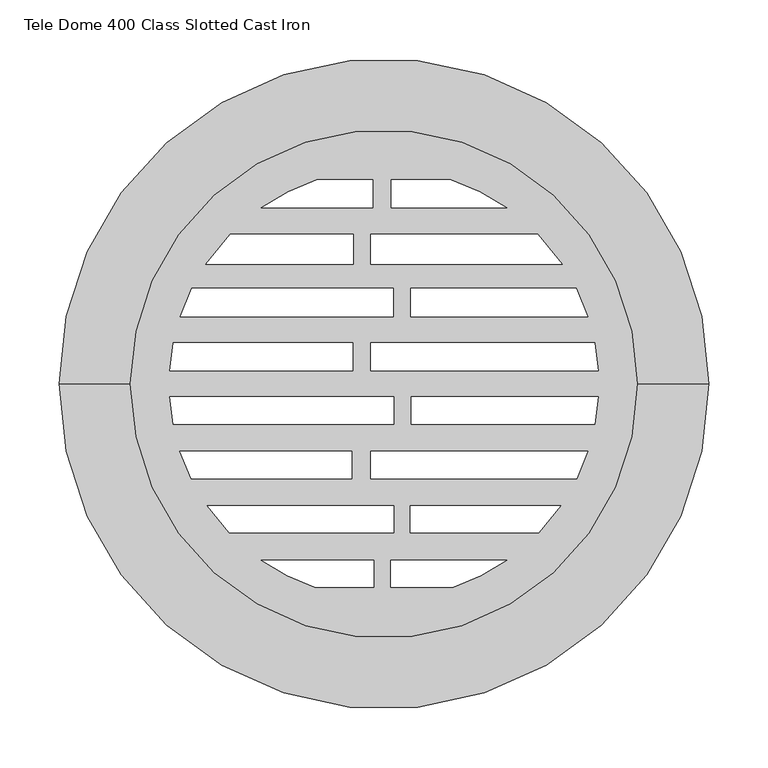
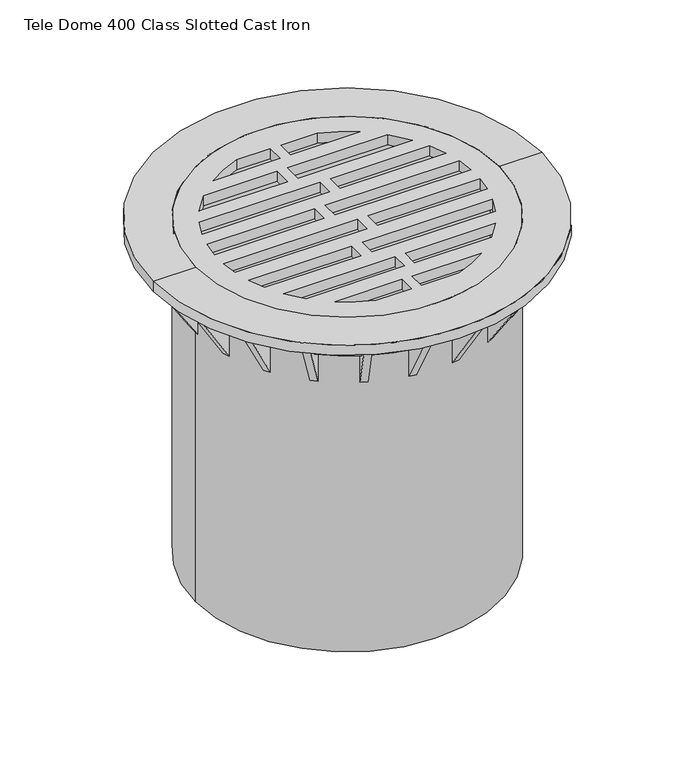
"""IFC4 building model written with IfcOpenShell, lengths in millimetres: proxy geometry, GRAF Tele Dome 400 Class Slotted Cast Iron : Tele Dome 400 Class Slotted Cast Iron."""

from ifc_helpers import new_model, si_unit, point, frame, origin, origin_2d, place, context, project, spatial, polyline, circle_curve, trimmed, segment, composite_curve, outline, extrude, source, transform, mapped, element, save
from ifc_brep_helpers import plane_surface, cylinder_surface, revolved_surface, advanced_brep


def tele_dome_400_class_slotted_cast_iron_ae01a707(model_context):
    return source(origin(), model_context, "Body", "SolidModel", [
        advanced_brep(
        [(215.0, 0.0, -14.9500624), (-215.0, 0.0, -14.9500624), (-275.0, 0.0, -14.9500624), (275.0, 0.0, -14.9500624), (-275.0, 0.0, 0.0), (275.0, 0.0, 0.0), (-215.0, 0.0, 0.0), (215.0, 0.0, 0.0)],
        [
            (0, 1, circle_curve(frame((0.0, 0.0, -14.9500624), z_axis=(0.0, 0.0, 1.0), x_axis=(-1.0, 0.0, 0.0)), 215.0)),
            (1, 2),
            (2, 3, circle_curve(frame((0.0, 0.0, -14.9500624), z_axis=(0.0, 0.0, -1.0), x_axis=(-1.0, 0.0, 0.0)), 275.0)),
            (3, 0),
            (1, 0, circle_curve(frame((0.0, 0.0, -14.9500624), z_axis=(0.0, 0.0, 1.0), x_axis=(-1.0, 0.0, 0.0)), 215.0)),
            (3, 2, circle_curve(frame((0.0, 0.0, -14.9500624), z_axis=(0.0, 0.0, -1.0), x_axis=(-1.0, 0.0, 0.0)), 275.0)),
            (2, 4),
            (4, 5, circle_curve(frame((0.0, 0.0, 0.0), z_axis=(0.0, 0.0, -1.0), x_axis=(-1.0, 0.0, 0.0)), 275.0)),
            (5, 3),
            (5, 4, circle_curve(frame((0.0, 0.0, 0.0), z_axis=(0.0, 0.0, -1.0), x_axis=(-1.0, 0.0, 0.0)), 275.0)),
            (4, 6),
            (6, 7, circle_curve(frame((0.0, 0.0, 0.0), z_axis=(0.0, 0.0, -1.0), x_axis=(-1.0, 0.0, 0.0)), 215.0)),
            (7, 5),
            (7, 6, circle_curve(frame((0.0, 0.0, 0.0), z_axis=(0.0, 0.0, -1.0), x_axis=(-1.0, 0.0, 0.0)), 215.0)),
            (6, 1),
            (0, 7),
        ],
        [
            plane_surface(frame((0.0, 0.0, -14.9500624), z_axis=(0.0, 0.0, -1.0), x_axis=(-1.0, 0.0, 0.0))),
            cylinder_surface(frame((0.0, 0.0, -119.9500624), z_axis=(0.0, 0.0, -1.0), x_axis=(-1.0, 0.0, 0.0)), 275.0),
            plane_surface(frame((0.0, 0.0, 0.0), z_axis=(0.0, 0.0, 1.0), x_axis=(-1.0, 0.0, 0.0))),
            revolved_surface(polyline([(-215.0, 0.0, -14.950062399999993), (-215.0, 0.0, 0.0)]), (0.0, 0.0, -119.9500624), (0.0, 0.0, -1.0)),
        ],
        [
            (0, [[1, 2, 3, 4]]),
            (0, [[5, -4, 6, -2]]),
            (1, [[-3, 7, 8, 9]]),
            (1, [[-6, -9, 10, -7]]),
            (2, [[-8, 11, 12, 13]]),
            (2, [[-10, -13, 14, -11]]),
            (3, [[-12, 15, -1, 16]]),
            (3, [[-14, -16, -5, -15]]),
        ],
    ),
        extrude(outline(composite_curve([segment(trimmed(circle_curve(origin_2d(), 215.0), [point((-215.0, 0.0))], [point((215.0, 0.0))], False, "CARTESIAN"), True, "CONTINUOUS"), segment(trimmed(circle_curve(origin_2d(), 215.0), [point((215.0, 0.0))], [point((-215.0, 0.0))], False, "CARTESIAN"), True, "CONTINUOUS")], self_intersect=False), holes=[composite_curve([segment(trimmed(circle_curve(origin_2d(), 202.0), [point((-202.0, 0.0))], [point((202.0, 0.0))], True, "CARTESIAN"), True, "CONTINUOUS"), segment(trimmed(circle_curve(origin_2d(), 202.0), [point((202.0, 0.0))], [point((-202.0, 0.0))], True, "CARTESIAN"), True, "CONTINUOUS")], self_intersect=False)]), frame((0.0, 0.0, -500.0), z_axis=(0.0, 0.0, 1.0), x_axis=(1.0, 0.0, 0.0)), (0.0, 0.0, 1.0), 485.0499376),
        extrude(outline(composite_curve([segment(trimmed(circle_curve(origin_2d(), 215.0), [point((215.0, 0.0))], [point((-215.0, 0.0))], False, "CARTESIAN"), True, "CONTINUOUS"), segment(trimmed(circle_curve(origin_2d(), 215.0), [point((-215.0, 0.0))], [point((215.0, 0.0))], False, "CARTESIAN"), True, "CONTINUOUS")], self_intersect=False), holes=[composite_curve([segment(trimmed(circle_curve(origin_2d(), 181.7879702), [point((104.0056263, 149.0962636))], [point((56.7020632, 172.7186792))], True, "CARTESIAN"), True, "CONTINUOUS"), segment(polyline([(56.7020632, 172.7186792), (6.0031062, 172.7186792), (6.0031062, 149.0962636), (104.0056263, 149.0962636)]), True, "CONTINUOUS")], self_intersect=False), composite_curve([segment(polyline([(-104.0056263, 149.0962636), (-9.368181, 149.0962636), (-9.368181, 172.7186792), (-56.7020632, 172.7186792)]), True, "CONTINUOUS"), segment(trimmed(circle_curve(origin_2d(), 181.7879702), [point((-56.7020632, 172.7186792))], [point((-104.0056263, 149.0962636))], True, "CARTESIAN"), True, "CONTINUOUS")], self_intersect=False), composite_curve([segment(trimmed(circle_curve(origin_2d(), 181.7879702), [point((-130.2807998, 126.7824094))], [point((-150.8217499, 101.4872695))], True, "CARTESIAN"), True, "CONTINUOUS"), segment(polyline([(-150.8217499, 101.4872695), (-26.0395943, 101.4872695), (-26.0395943, 126.7824094), (-130.2807998, 126.7824094)]), True, "CONTINUOUS")], self_intersect=False), composite_curve([segment(trimmed(circle_curve(origin_2d(), 181.7879702), [point((150.8217499, 101.4872695))], [point((130.2807998, 126.7824094))], True, "CARTESIAN"), True, "CONTINUOUS"), segment(polyline([(130.2807998, 126.7824094), (-11.1301775, 126.7824094), (-11.1301775, 101.4872695), (150.8217499, 101.4872695)]), True, "CONTINUOUS")], self_intersect=False), composite_curve([segment(trimmed(circle_curve(origin_2d(), 181.7879702), [point((-162.7315295, 81.0266341))], [point((-172.5932119, 57.0828286))], True, "CARTESIAN"), True, "CONTINUOUS"), segment(polyline([(-172.5932119, 57.0828286), (8.0502934, 57.0828286), (8.0502934, 81.0266341), (-162.7315295, 81.0266341)]), True, "CONTINUOUS")], self_intersect=False), composite_curve([segment(trimmed(circle_curve(origin_2d(), 181.7879702), [point((172.5932119, 57.0828286))], [point((162.7315295, 81.0266341))], True, "CARTESIAN"), True, "CONTINUOUS"), segment(polyline([(162.7315295, 81.0266341), (22.6792865, 81.0266341), (22.6792865, 57.0828286), (172.5932119, 57.0828286)]), True, "CONTINUOUS")], self_intersect=False), composite_curve([segment(polyline([(178.419085, 34.8352727), (-11.2199973, 34.8352727), (-11.2199973, 11.148851), (181.4457749, 11.148851)]), True, "CONTINUOUS"), segment(trimmed(circle_curve(origin_2d(), 181.7879702), [point((181.4457749, 11.148851))], [point((178.419085, 34.8352727))], True, "CARTESIAN"), True, "CONTINUOUS")], self_intersect=False), composite_curve([segment(trimmed(circle_curve(origin_2d(), 181.7879702), [point((-178.419085, 34.8352727))], [point((-181.4457749, 11.148851))], True, "CARTESIAN"), True, "CONTINUOUS"), segment(polyline([(-181.4457749, 11.148851), (-26.3138873, 11.148851), (-26.3138873, 34.8352727), (-178.419085, 34.8352727)]), True, "CONTINUOUS")], self_intersect=False), composite_curve([segment(trimmed(circle_curve(origin_2d(), 181.7879702), [point((-181.4539998, -11.0141769))], [point((-178.5405492, -34.2072859))], True, "CARTESIAN"), True, "CONTINUOUS"), segment(polyline([(-178.5405492, -34.2072859), (8.270985, -34.2072859), (8.270985, -11.0141769), (-181.4539998, -11.0141769)]), True, "CONTINUOUS")], self_intersect=False), composite_curve([segment(trimmed(circle_curve(origin_2d(), 181.7879702), [point((-172.6963471, -56.7700432))], [point((-163.1909736, -80.0972675))], True, "CARTESIAN"), True, "CONTINUOUS"), segment(polyline([(-163.1909736, -80.0972675), (-27.0656601, -80.0972675), (-27.0656601, -56.7700432), (-172.6963471, -56.7700432)]), True, "CONTINUOUS")], self_intersect=False), composite_curve([segment(polyline([(172.6963471, -56.7700432), (-11.1600768, -56.7700432), (-11.1600768, -80.0972675), (163.1909736, -80.0972675)]), True, "CONTINUOUS"), segment(trimmed(circle_curve(origin_2d(), 181.7879702), [point((163.1909736, -80.0972675))], [point((172.6963471, -56.7700432))], True, "CARTESIAN"), True, "CONTINUOUS")], self_intersect=False), composite_curve([segment(polyline([(149.7625035, -103.0439647), (22.4124101, -103.0439647), (22.4124101, -125.9141651), (131.1201325, -125.9141651)]), True, "CONTINUOUS"), segment(trimmed(circle_curve(origin_2d(), 181.7879702), [point((131.1201325, -125.9141651))], [point((149.7625035, -103.0439647))], True, "CARTESIAN"), True, "CONTINUOUS")], self_intersect=False), composite_curve([segment(trimmed(circle_curve(origin_2d(), 181.7879702), [point((-149.7625035, -103.0439647))], [point((-131.1201325, -125.9141651))], True, "CARTESIAN"), True, "CONTINUOUS"), segment(polyline([(-131.1201325, -125.9141651), (8.2003885, -125.9141651), (8.2003885, -103.0439647), (-149.7625035, -103.0439647)]), True, "CONTINUOUS")], self_intersect=False), composite_curve([segment(polyline([(-58.5481608, -172.1016531), (-8.8033648, -172.1016531), (-8.8033648, -149.2384658), (-103.8014761, -149.2384658)]), True, "CONTINUOUS"), segment(trimmed(circle_curve(origin_2d(), 181.7879702), [point((-103.8014761, -149.2384658))], [point((-58.5481608, -172.1016531))], True, "CARTESIAN"), True, "CONTINUOUS")], self_intersect=False), composite_curve([segment(polyline([(103.8014761, -149.2384658), (5.5663902, -149.2384658), (5.5663902, -172.1016531), (58.5481608, -172.1016531)]), True, "CONTINUOUS"), segment(trimmed(circle_curve(origin_2d(), 181.7879702), [point((58.5481608, -172.1016531))], [point((103.8014761, -149.2384658))], True, "CARTESIAN"), True, "CONTINUOUS")], self_intersect=False), composite_curve([segment(polyline([(181.4539998, -11.0141769), (22.9993431, -11.0141769), (22.9993431, -34.2072859), (178.5405492, -34.2072859)]), True, "CONTINUOUS"), segment(trimmed(circle_curve(origin_2d(), 181.7879702), [point((178.5405492, -34.2072859))], [point((181.4539998, -11.0141769))], True, "CARTESIAN"), True, "CONTINUOUS")], self_intersect=False)]), frame((0.0, 0.0, -14.9500624), z_axis=(0.0, 0.0, 1.0), x_axis=(1.0, 0.0, 0.0)), (0.0, 0.0, 1.0), 14.9500624),
        extrude(outline(polyline([(82.4881085, 0.0), (82.4881085, -53.6625353), (0.0, 0.0), (82.4881085, 0.0)])), frame((-204.8823265, -65.3699646, -97.4381709), z_axis=(-0.28173255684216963, 0.9594929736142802, 0.0), x_axis=(0.0, 0.0, 1.0)), (0.0, 0.0, 1.0), 10.0),
        extrude(outline(polyline([(-14.9500624, -215.0), (-14.9500624, -268.6625353), (-97.4381709, -215.0), (-14.9500624, -215.0)])), frame((0.0, -5.0, 0.0), z_axis=(0.0, 1.0, 0.0), x_axis=(0.0, 0.0, 1.0)), (0.0, 0.0, 1.0), 10.0),
        extrude(outline(polyline([(0.0, 0.0), (53.6625353, 0.0), (0.0, -82.4881085), (0.0, 0.0)])), frame((-207.6996521, 55.7750349, -14.9500624), z_axis=(0.2817325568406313, 0.959492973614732, 0.0), x_axis=(-0.959492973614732, 0.2817325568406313, 0.0)), (0.0, 0.0, 1.0), 10.0),
        extrude(outline(polyline([(0.0, 0.0), (53.6625353, 0.0), (0.0, -82.4881085), (0.0, 0.0)])), frame((-137.0163099, -165.7604622, -14.9500624), z_axis=(-0.7557495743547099, 0.6548607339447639, 0.0), x_axis=(-0.6548607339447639, -0.7557495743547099, 0.0)), (0.0, 0.0, 1.0), 10.0),
        extrude(outline(polyline([(82.4881085, 0.0), (82.4881085, -53.6625353), (0.0, 0.0), (82.4881085, 0.0)])), frame((-178.1663055, -120.4440434, -97.4381709), z_axis=(-0.5406408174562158, 0.841253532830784, 0.0), x_axis=(0.0, 0.0, 1.0)), (0.0, 0.0, 1.0), 10.0),
        extrude(outline(polyline([(82.4881085, 0.0), (82.4881085, -53.6625352), (0.0, 0.0), (82.4881085, 0.0)])), frame((-84.7660678, -197.6479541, -97.4381709), z_axis=(-0.9096319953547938, 0.41541501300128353, 0.0), x_axis=(0.0, 0.0, 1.0)), (0.0, 0.0, 1.0), 10.0),
        extrude(outline(polyline([(82.4881085, 0.0), (82.4881085, -53.6625353), (0.0, 0.0), (82.4881085, 0.0)])), frame((-25.648583, -213.5231842, -97.4381709), z_axis=(-0.9898214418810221, 0.14231483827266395, 0.0), x_axis=(0.0, 0.0, 1.0)), (0.0, 0.0, 1.0), 10.0),
        extrude(outline(polyline([(-14.9500624, 215.0), (-97.4381709, 215.0), (-14.9500624, 268.6625353), (-14.9500624, 215.0)])), frame((0.0, -5.0, 0.0), z_axis=(0.0, 1.0, 0.0), x_axis=(0.0, 0.0, 1.0)), (0.0, 0.0, 1.0), 10.0),
        extrude(outline(polyline([(-82.4881085, 0.0), (0.0, 0.0), (-82.4881085, -53.6625353), (-82.4881085, 0.0)])), frame((207.6996521, 55.7750349, -97.4381709), z_axis=(-0.28173255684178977, 0.9594929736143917, 0.0), x_axis=(0.0, 0.0, -1.0)), (0.0, 0.0, 1.0), 10.0),
        extrude(outline(polyline([(-82.4881085, 0.0), (0.0, 0.0), (-82.4881085, -53.6625353), (-82.4881085, 0.0)])), frame((183.5727136, 112.0315081, -97.4381709), z_axis=(-0.5406408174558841, 0.8412535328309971, 0.0), x_axis=(0.0, 0.0, -1.0)), (0.0, 0.0, 1.0), 10.0),
        extrude(outline(polyline([(-82.4881085, 0.0), (0.0, 0.0), (-82.4881085, -53.6625353), (-82.4881085, 0.0)])), frame((178.1663055, -120.4440434, -97.4381709), z_axis=(0.5406408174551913, 0.8412535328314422, 0.0), x_axis=(0.0, 0.0, -1.0)), (0.0, 0.0, 1.0), 10.0),
        extrude(outline(polyline([(0.0, 0.0), (0.0, -82.4881085), (-53.6625353, 0.0), (0.0, 0.0)])), frame((204.8823265, -65.3699646, -14.9500624), z_axis=(0.2817325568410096, 0.9594929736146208, 0.0), x_axis=(-0.9594929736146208, 0.2817325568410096, 0.0)), (0.0, 0.0, 1.0), 10.0),
        extrude(outline(polyline([(0.0, 0.0), (0.0, -82.4881085), (-53.6625353, 0.0), (0.0, 0.0)])), frame((137.0163099, -165.7604622, -14.9500624), z_axis=(0.7557495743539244, 0.6548607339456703, 0.0), x_axis=(-0.6548607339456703, 0.7557495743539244, 0.0)), (0.0, 0.0, 1.0), 10.0),
        extrude(outline(polyline([(0.0, 0.0), (0.0, -82.4881085), (-53.6625352, 0.0), (0.0, 0.0)])), frame((84.7660678, -197.6479541, -14.9500624), z_axis=(0.909631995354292, 0.4154150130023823, 0.0), x_axis=(-0.4154150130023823, 0.909631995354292, 0.0)), (0.0, 0.0, 1.0), 10.0),
        extrude(outline(polyline([(-82.4881085, 0.0), (0.0, 0.0), (-82.4881085, -53.6625353), (-82.4881085, 0.0)])), frame((25.648583, -213.5231842, -97.4381709), z_axis=(0.9898214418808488, 0.1423148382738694, 0.0), x_axis=(0.0, 0.0, -1.0)), (0.0, 0.0, 1.0), 10.0),
        extrude(outline(polyline([(82.4881085, 0.0), (82.4881085, -53.6625353), (0.0, 0.0), (82.4881085, 0.0)])), frame((-35.5467974, 212.1000358, -97.4381709), z_axis=(0.9898214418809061, 0.1423148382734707, 0.0), x_axis=(0.0, 0.0, 1.0)), (0.0, 0.0, 1.0), 10.0),
        extrude(outline(polyline([(0.0, 0.0), (0.0, -82.4881085), (-53.6625353, 0.0), (0.0, 0.0)])), frame((35.5467974, 212.1000358, -14.9500624), z_axis=(-0.9898214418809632, 0.14231483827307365, 0.0), x_axis=(-0.14231483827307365, -0.9898214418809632, 0.0)), (0.0, 0.0, 1.0), 10.0),
        extrude(outline(polyline([(0.0, 0.0), (0.0, -82.4881085), (-53.6625353, 0.0), (0.0, 0.0)])), frame((93.8623878, 193.4938039, -14.9500624), z_axis=(-0.9096319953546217, 0.41541501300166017, 0.0), x_axis=(-0.41541501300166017, -0.9096319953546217, 0.0)), (0.0, 0.0, 1.0), 10.0),
        extrude(outline(polyline([(-82.4881085, 0.0), (0.0, 0.0), (-82.4881085, -53.6625353), (-82.4881085, 0.0)])), frame((144.5738057, 159.2118548, -97.4381709), z_axis=(-0.7557495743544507, 0.6548607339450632, 0.0), x_axis=(0.0, 0.0, -1.0)), (0.0, 0.0, 1.0), 10.0),
        extrude(outline(polyline([(0.0, 0.0), (53.6625353, 0.0), (0.0, -82.4881085), (0.0, 0.0)])), frame((-144.5738057, 159.2118548, -14.9500624), z_axis=(0.7557495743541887, 0.6548607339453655, 0.0), x_axis=(-0.6548607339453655, 0.7557495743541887, 0.0)), (0.0, 0.0, 1.0), 10.0),
        extrude(outline(polyline([(82.4881085, 0.0), (82.4881085, -53.6625353), (0.0, 0.0), (82.4881085, 0.0)])), frame((-93.8623878, 193.4938039, -97.4381709), z_axis=(0.9096319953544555, 0.4154150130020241, 0.0), x_axis=(0.0, 0.0, 1.0)), (0.0, 0.0, 1.0), 10.0),
        extrude(outline(polyline([(82.4881085, 0.0), (82.4881085, -53.6625353), (0.0, 0.0), (82.4881085, 0.0)])), frame((-183.5727136, 112.0315081, -97.4381709), z_axis=(0.5406408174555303, 0.8412535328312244, 0.0), x_axis=(0.0, 0.0, 1.0)), (0.0, 0.0, 1.0), 10.0),
        extrude(outline(polyline([(82.4881085, 0.0), (82.4881085, -53.6625353), (0.0, 0.0), (82.4881085, 0.0)])), frame((-207.6996521, 55.7750349, -97.4381709), z_axis=(0.28173255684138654, 0.9594929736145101, 0.0), x_axis=(0.0, 0.0, 1.0)), (0.0, 0.0, 1.0), 10.0),
        extrude(outline(polyline([(-14.9500624, -215.0), (-14.9500624, -268.6625353), (-97.4381709, -215.0), (-14.9500624, -215.0)])), frame((0.0, -5.0, 0.0), z_axis=(0.0, 1.0, 0.0), x_axis=(0.0, 0.0, 1.0)), (0.0, 0.0, 1.0), 10.0),
        extrude(outline(composite_curve([segment(polyline([(-214.9418526, 5.0), (-239.947911, 5.0)]), True, "CONTINUOUS"), segment(trimmed(circle_curve(origin_2d(), 240.0), [point((-239.947911, 5.0))], [point((-231.6369974, 62.8036736))], False, "CARTESIAN"), True, "CONTINUOUS"), segment(polyline([(-231.6369974, 62.8036736), (-207.6438601, 55.7586528)]), True, "CONTINUOUS"), segment(trimmed(circle_curve(origin_2d(), 215.0), [point((-207.6438601, 55.7586528))], [point((-214.9418526, 5.0))], True, "CARTESIAN"), True, "CONTINUOUS")], self_intersect=False)), frame((0.0, 0.0, -40.0), z_axis=(0.0, 0.0, 1.0), x_axis=(1.0, 0.0, 0.0)), (0.0, 0.0, 1.0), 25.0499376),
        extrude(outline(composite_curve([segment(trimmed(circle_curve(origin_2d(), 215.0), [point((-183.5237969, 112.0000712))], [point((-204.8265345, 65.3535826))], True, "CARTESIAN"), True, "CONTINUOUS"), segment(polyline([(-204.8265345, 65.3535826), (-228.8196719, 72.3986033)]), True, "CONTINUOUS"), segment(trimmed(circle_curve(origin_2d(), 240.0), [point((-228.8196719, 72.3986033))], [point((-204.5602319, 125.5193671))], False, "CARTESIAN"), True, "CONTINUOUS"), segment(polyline([(-204.5602319, 125.5193671), (-183.5237969, 112.0000712)]), True, "CONTINUOUS")], self_intersect=False)), frame((0.0, 0.0, -40.0), z_axis=(0.0, 0.0, 1.0), x_axis=(1.0, 0.0, 0.0)), (0.0, 0.0, 1.0), 25.0499376),
        extrude(outline(composite_curve([segment(polyline([(-178.1173888, 120.4126066), (-199.1538237, 133.9319024)]), True, "CONTINUOUS"), segment(trimmed(circle_curve(origin_2d(), 240.0), [point((-199.1538237, 133.9319024))], [point((-160.911213, 178.0662279))], False, "CARTESIAN"), True, "CONTINUOUS"), segment(polyline([(-160.911213, 178.0662279), (-144.5357272, 159.1679099)]), True, "CONTINUOUS"), segment(trimmed(circle_curve(origin_2d(), 215.0), [point((-144.5357272, 159.1679099))], [point((-178.1173888, 120.4126066))], True, "CARTESIAN"), True, "CONTINUOUS")], self_intersect=False)), frame((0.0, 0.0, -40.0), z_axis=(0.0, 0.0, 1.0), x_axis=(1.0, 0.0, 0.0)), (0.0, 0.0, 1.0), 25.0499376),
        extrude(outline(composite_curve([segment(trimmed(circle_curve(origin_2d(), 215.0), [point((-93.8382325, 193.4409112))], [point((-136.9782315, 165.7165173))], True, "CARTESIAN"), True, "CONTINUOUS"), segment(polyline([(-136.9782315, 165.7165173), (-153.3537172, 184.6148353)]), True, "CONTINUOUS"), segment(trimmed(circle_curve(origin_2d(), 240.0), [point((-153.3537172, 184.6148353))], [point((-104.2261246, 216.187222))], False, "CARTESIAN"), True, "CONTINUOUS"), segment(polyline([(-104.2261246, 216.187222), (-93.8382325, 193.4409112)]), True, "CONTINUOUS")], self_intersect=False)), frame((0.0, 0.0, -40.0), z_axis=(0.0, 0.0, 1.0), x_axis=(1.0, 0.0, 0.0)), (0.0, 0.0, 1.0), 25.0499376),
        extrude(outline(composite_curve([segment(trimmed(circle_curve(origin_2d(), 215.0), [point((136.9782315, 165.7165173))], [point((93.8382325, 193.4409112))], True, "CARTESIAN"), True, "CONTINUOUS"), segment(polyline([(93.8382325, 193.4409112), (104.2261246, 216.187222)]), True, "CONTINUOUS"), segment(trimmed(circle_curve(origin_2d(), 240.0), [point((104.2261246, 216.187222))], [point((153.3537172, 184.6148353))], False, "CARTESIAN"), True, "CONTINUOUS"), segment(polyline([(153.3537172, 184.6148353), (136.9782315, 165.7165173)]), True, "CONTINUOUS")], self_intersect=False)), frame((0.0, 0.0, -40.0), z_axis=(0.0, 0.0, 1.0), x_axis=(1.0, 0.0, 0.0)), (0.0, 0.0, 1.0), 25.0499376),
        extrude(outline(composite_curve([segment(polyline([(35.5385222, 212.0424803), (39.0972554, 236.7940131)]), True, "CONTINUOUS"), segment(trimmed(circle_curve(origin_2d(), 240.0), [point((39.0972554, 236.7940131))], [point((95.1298046, 220.3413721))], False, "CARTESIAN"), True, "CONTINUOUS"), segment(polyline([(95.1298046, 220.3413721), (84.7419125, 197.5950613)]), True, "CONTINUOUS"), segment(trimmed(circle_curve(origin_2d(), 215.0), [point((84.7419125, 197.5950613))], [point((35.5385222, 212.0424803))], True, "CARTESIAN"), True, "CONTINUOUS")], self_intersect=False)), frame((0.0, 0.0, -40.0), z_axis=(0.0, 0.0, 1.0), x_axis=(1.0, 0.0, 0.0)), (0.0, 0.0, 1.0), 25.0499376),
        extrude(outline(composite_curve([segment(trimmed(circle_curve(origin_2d(), 215.0), [point((25.6403078, 213.4656287))], [point((-25.6403078, 213.4656287))], True, "CARTESIAN"), True, "CONTINUOUS"), segment(polyline([(-25.6403078, 213.4656287), (-29.1990409, 238.2171614)]), True, "CONTINUOUS"), segment(trimmed(circle_curve(origin_2d(), 240.0), [point((-29.1990409, 238.2171614))], [point((29.1990409, 238.2171614))], False, "CARTESIAN"), True, "CONTINUOUS"), segment(polyline([(29.1990409, 238.2171614), (25.6403078, 213.4656287)]), True, "CONTINUOUS")], self_intersect=False)), frame((0.0, 0.0, -40.0), z_axis=(0.0, 0.0, 1.0), x_axis=(1.0, 0.0, 0.0)), (0.0, 0.0, 1.0), 25.0499376),
        extrude(outline(composite_curve([segment(polyline([(-84.7419125, 197.5950613), (-95.1298046, 220.3413721)]), True, "CONTINUOUS"), segment(trimmed(circle_curve(origin_2d(), 240.0), [point((-95.1298046, 220.3413721))], [point((-39.0972554, 236.7940131))], False, "CARTESIAN"), True, "CONTINUOUS"), segment(polyline([(-39.0972554, 236.7940131), (-35.5385222, 212.0424803)]), True, "CONTINUOUS"), segment(trimmed(circle_curve(origin_2d(), 215.0), [point((-35.5385222, 212.0424803))], [point((-84.7419125, 197.5950613))], True, "CARTESIAN"), True, "CONTINUOUS")], self_intersect=False)), frame((0.0, 0.0, -40.0), z_axis=(0.0, 0.0, 1.0), x_axis=(1.0, 0.0, 0.0)), (0.0, 0.0, 1.0), 25.0499376),
        extrude(outline(composite_curve([segment(trimmed(circle_curve(origin_2d(), 215.0), [point((35.5385222, -212.0424803))], [point((84.7419125, -197.5950613))], True, "CARTESIAN"), True, "CONTINUOUS"), segment(polyline([(84.7419125, -197.5950613), (95.1298046, -220.3413721)]), True, "CONTINUOUS"), segment(trimmed(circle_curve(origin_2d(), 240.0), [point((95.1298046, -220.3413721))], [point((39.0972554, -236.7940131))], False, "CARTESIAN"), True, "CONTINUOUS"), segment(polyline([(39.0972554, -236.7940131), (35.5385222, -212.0424803)]), True, "CONTINUOUS")], self_intersect=False)), frame((0.0, 0.0, -40.0), z_axis=(0.0, 0.0, 1.0), x_axis=(1.0, 0.0, 0.0)), (0.0, 0.0, 1.0), 25.0499376),
        extrude(outline(composite_curve([segment(polyline([(136.9782315, -165.7165173), (153.3537172, -184.6148353)]), True, "CONTINUOUS"), segment(trimmed(circle_curve(origin_2d(), 240.0), [point((153.3537172, -184.6148353))], [point((104.2261246, -216.187222))], False, "CARTESIAN"), True, "CONTINUOUS"), segment(polyline([(104.2261246, -216.187222), (93.8382325, -193.4409112)]), True, "CONTINUOUS"), segment(trimmed(circle_curve(origin_2d(), 215.0), [point((93.8382325, -193.4409112))], [point((136.9782315, -165.7165173))], True, "CARTESIAN"), True, "CONTINUOUS")], self_intersect=False)), frame((0.0, 0.0, -40.0), z_axis=(0.0, 0.0, 1.0), x_axis=(1.0, 0.0, 0.0)), (0.0, 0.0, 1.0), 25.0499376),
        extrude(outline(composite_curve([segment(trimmed(circle_curve(origin_2d(), 215.0), [point((144.5357272, -159.1679099))], [point((178.1173888, -120.4126066))], True, "CARTESIAN"), True, "CONTINUOUS"), segment(polyline([(178.1173888, -120.4126066), (199.1538237, -133.9319024)]), True, "CONTINUOUS"), segment(trimmed(circle_curve(origin_2d(), 240.0), [point((199.1538237, -133.9319024))], [point((160.911213, -178.0662279))], False, "CARTESIAN"), True, "CONTINUOUS"), segment(polyline([(160.911213, -178.0662279), (144.5357272, -159.1679099)]), True, "CONTINUOUS")], self_intersect=False)), frame((0.0, 0.0, -40.0), z_axis=(0.0, 0.0, 1.0), x_axis=(1.0, 0.0, 0.0)), (0.0, 0.0, 1.0), 25.0499376),
        extrude(outline(composite_curve([segment(polyline([(204.8265345, -65.3535826), (228.8196719, -72.3986033)]), True, "CONTINUOUS"), segment(trimmed(circle_curve(origin_2d(), 240.0), [point((228.8196719, -72.3986033))], [point((204.5602319, -125.5193671))], False, "CARTESIAN"), True, "CONTINUOUS"), segment(polyline([(204.5602319, -125.5193671), (183.5237969, -112.0000712)]), True, "CONTINUOUS"), segment(trimmed(circle_curve(origin_2d(), 215.0), [point((183.5237969, -112.0000712))], [point((204.8265345, -65.3535826))], True, "CARTESIAN"), True, "CONTINUOUS")], self_intersect=False)), frame((0.0, 0.0, -40.0), z_axis=(0.0, 0.0, 1.0), x_axis=(1.0, 0.0, 0.0)), (0.0, 0.0, 1.0), 25.0499376),
        extrude(outline(composite_curve([segment(polyline([(144.5357272, 159.1679099), (160.911213, 178.0662279)]), True, "CONTINUOUS"), segment(trimmed(circle_curve(origin_2d(), 240.0), [point((160.911213, 178.0662279))], [point((199.1538237, 133.9319024))], False, "CARTESIAN"), True, "CONTINUOUS"), segment(polyline([(199.1538237, 133.9319024), (178.1173888, 120.4126066)]), True, "CONTINUOUS"), segment(trimmed(circle_curve(origin_2d(), 215.0), [point((178.1173888, 120.4126066))], [point((144.5357272, 159.1679099))], True, "CARTESIAN"), True, "CONTINUOUS")], self_intersect=False)), frame((0.0, 0.0, -40.0), z_axis=(0.0, 0.0, 1.0), x_axis=(1.0, 0.0, 0.0)), (0.0, 0.0, 1.0), 25.0499376),
        extrude(outline(composite_curve([segment(trimmed(circle_curve(origin_2d(), 215.0), [point((204.8265345, 65.3535826))], [point((183.5237969, 112.0000712))], True, "CARTESIAN"), True, "CONTINUOUS"), segment(polyline([(183.5237969, 112.0000712), (204.5602319, 125.5193671)]), True, "CONTINUOUS"), segment(trimmed(circle_curve(origin_2d(), 240.0), [point((204.5602319, 125.5193671))], [point((228.8196719, 72.3986033))], False, "CARTESIAN"), True, "CONTINUOUS"), segment(polyline([(228.8196719, 72.3986033), (204.8265345, 65.3535826)]), True, "CONTINUOUS")], self_intersect=False)), frame((0.0, 0.0, -40.0), z_axis=(0.0, 0.0, 1.0), x_axis=(1.0, 0.0, 0.0)), (0.0, 0.0, 1.0), 25.0499376),
        extrude(outline(composite_curve([segment(polyline([(207.6438601, 55.7586528), (231.6369974, 62.8036736)]), True, "CONTINUOUS"), segment(trimmed(circle_curve(origin_2d(), 240.0), [point((231.6369974, 62.8036736))], [point((239.947911, 5.0))], False, "CARTESIAN"), True, "CONTINUOUS"), segment(polyline([(239.947911, 5.0), (214.9418526, 5.0)]), True, "CONTINUOUS"), segment(trimmed(circle_curve(origin_2d(), 215.0), [point((214.9418526, 5.0))], [point((207.6438601, 55.7586528))], True, "CARTESIAN"), True, "CONTINUOUS")], self_intersect=False)), frame((0.0, 0.0, -40.0), z_axis=(0.0, 0.0, 1.0), x_axis=(1.0, 0.0, 0.0)), (0.0, 0.0, 1.0), 25.0499376),
        extrude(outline(composite_curve([segment(trimmed(circle_curve(origin_2d(), 215.0), [point((207.6438601, -55.7586528))], [point((214.9418526, -5.0))], True, "CARTESIAN"), True, "CONTINUOUS"), segment(polyline([(214.9418526, -5.0), (239.947911, -5.0)]), True, "CONTINUOUS"), segment(trimmed(circle_curve(origin_2d(), 240.0), [point((239.947911, -5.0))], [point((231.6369974, -62.8036736))], False, "CARTESIAN"), True, "CONTINUOUS"), segment(polyline([(231.6369974, -62.8036736), (207.6438601, -55.7586528)]), True, "CONTINUOUS")], self_intersect=False)), frame((0.0, 0.0, -40.0), z_axis=(0.0, 0.0, 1.0), x_axis=(1.0, 0.0, 0.0)), (0.0, 0.0, 1.0), 25.0499376),
        extrude(outline(composite_curve([segment(polyline([(25.6403078, -213.4656287), (29.1990409, -238.2171614)]), True, "CONTINUOUS"), segment(trimmed(circle_curve(origin_2d(), 240.0), [point((29.1990409, -238.2171614))], [point((-29.1990409, -238.2171614))], False, "CARTESIAN"), True, "CONTINUOUS"), segment(polyline([(-29.1990409, -238.2171614), (-25.6403078, -213.4656287)]), True, "CONTINUOUS"), segment(trimmed(circle_curve(origin_2d(), 215.0), [point((-25.6403078, -213.4656287))], [point((25.6403078, -213.4656287))], True, "CARTESIAN"), True, "CONTINUOUS")], self_intersect=False)), frame((0.0, 0.0, -40.0), z_axis=(0.0, 0.0, 1.0), x_axis=(1.0, 0.0, 0.0)), (0.0, 0.0, 1.0), 25.0499376),
        extrude(outline(composite_curve([segment(trimmed(circle_curve(origin_2d(), 215.0), [point((-84.7419125, -197.5950613))], [point((-35.5385222, -212.0424803))], True, "CARTESIAN"), True, "CONTINUOUS"), segment(polyline([(-35.5385222, -212.0424803), (-39.0972554, -236.7940131)]), True, "CONTINUOUS"), segment(trimmed(circle_curve(origin_2d(), 240.0), [point((-39.0972554, -236.7940131))], [point((-95.1298046, -220.3413721))], False, "CARTESIAN"), True, "CONTINUOUS"), segment(polyline([(-95.1298046, -220.3413721), (-84.7419125, -197.5950613)]), True, "CONTINUOUS")], self_intersect=False)), frame((0.0, 0.0, -40.0), z_axis=(0.0, 0.0, 1.0), x_axis=(1.0, 0.0, 0.0)), (0.0, 0.0, 1.0), 25.0499376),
        extrude(outline(composite_curve([segment(polyline([(-93.8382325, -193.4409112), (-104.2261246, -216.187222)]), True, "CONTINUOUS"), segment(trimmed(circle_curve(origin_2d(), 240.0), [point((-104.2261246, -216.187222))], [point((-153.3537172, -184.6148353))], False, "CARTESIAN"), True, "CONTINUOUS"), segment(polyline([(-153.3537172, -184.6148353), (-136.9782315, -165.7165173)]), True, "CONTINUOUS"), segment(trimmed(circle_curve(origin_2d(), 215.0), [point((-136.9782315, -165.7165173))], [point((-93.8382325, -193.4409112))], True, "CARTESIAN"), True, "CONTINUOUS")], self_intersect=False)), frame((0.0, 0.0, -40.0), z_axis=(0.0, 0.0, 1.0), x_axis=(1.0, 0.0, 0.0)), (0.0, 0.0, 1.0), 25.0499376),
        extrude(outline(composite_curve([segment(trimmed(circle_curve(origin_2d(), 215.0), [point((-178.1173888, -120.4126066))], [point((-144.5357272, -159.1679099))], True, "CARTESIAN"), True, "CONTINUOUS"), segment(polyline([(-144.5357272, -159.1679099), (-160.911213, -178.0662279)]), True, "CONTINUOUS"), segment(trimmed(circle_curve(origin_2d(), 240.0), [point((-160.911213, -178.0662279))], [point((-199.1538237, -133.9319024))], False, "CARTESIAN"), True, "CONTINUOUS"), segment(polyline([(-199.1538237, -133.9319024), (-178.1173888, -120.4126066)]), True, "CONTINUOUS")], self_intersect=False)), frame((0.0, 0.0, -40.0), z_axis=(0.0, 0.0, 1.0), x_axis=(1.0, 0.0, 0.0)), (0.0, 0.0, 1.0), 25.0499376),
        extrude(outline(composite_curve([segment(polyline([(-183.5237969, -112.0000712), (-204.5602319, -125.5193671)]), True, "CONTINUOUS"), segment(trimmed(circle_curve(origin_2d(), 240.0), [point((-204.5602319, -125.5193671))], [point((-228.8196719, -72.3986033))], False, "CARTESIAN"), True, "CONTINUOUS"), segment(polyline([(-228.8196719, -72.3986033), (-204.8265345, -65.3535826)]), True, "CONTINUOUS"), segment(trimmed(circle_curve(origin_2d(), 215.0), [point((-204.8265345, -65.3535826))], [point((-183.5237969, -112.0000712))], True, "CARTESIAN"), True, "CONTINUOUS")], self_intersect=False)), frame((0.0, 0.0, -40.0), z_axis=(0.0, 0.0, 1.0), x_axis=(1.0, 0.0, 0.0)), (0.0, 0.0, 1.0), 25.0499376),
        extrude(outline(composite_curve([segment(trimmed(circle_curve(origin_2d(), 215.0), [point((-214.9418526, -5.0))], [point((-207.6438601, -55.7586528))], True, "CARTESIAN"), True, "CONTINUOUS"), segment(polyline([(-207.6438601, -55.7586528), (-231.6369974, -62.8036736)]), True, "CONTINUOUS"), segment(trimmed(circle_curve(origin_2d(), 240.0), [point((-231.6369974, -62.8036736))], [point((-239.947911, -5.0))], False, "CARTESIAN"), True, "CONTINUOUS"), segment(polyline([(-239.947911, -5.0), (-214.9418526, -5.0)]), True, "CONTINUOUS")], self_intersect=False)), frame((0.0, 0.0, -40.0), z_axis=(0.0, 0.0, 1.0), x_axis=(1.0, 0.0, 0.0)), (0.0, 0.0, 1.0), 25.0499376),
    ])


if __name__ == "__main__":
    model = new_model("IFC4")
    model_context = context("Model", 3, world=origin())
    ifc_project = project(units=[si_unit("LENGTHUNIT", "METRE", prefix="MILLI")], contexts=[model_context])
    site = spatial("IfcSite", under=ifc_project)
    building = spatial("IfcBuilding", under=site)
    placement = place(None, origin())
    tele_dome_400_class_slotted_cast_iron_shape = tele_dome_400_class_slotted_cast_iron_ae01a707(model_context)
    element("IfcBuildingElementProxy", 1, Name="GRAF Tele Dome 400 Class Slotted Cast Iron : Tele Dome 400 Class Slotted Cast Iron", ObjectType="GRAF Tele Dome 400 Class Slotted Cast Iron : Tele Dome 400 Class Slotted Cast Iron", at=placement, inside=building, context=model_context, shape_type="MappedRepresentation", body=[
        mapped(tele_dome_400_class_slotted_cast_iron_shape, transform((0.0, 0.0, 0.0), x_axis=(1.0, 0.0, 0.0), y_axis=(0.0, 1.0, 0.0), z_axis=(0.0, 0.0, 1.0))),
    ])
    save(model, "model.ifc")
